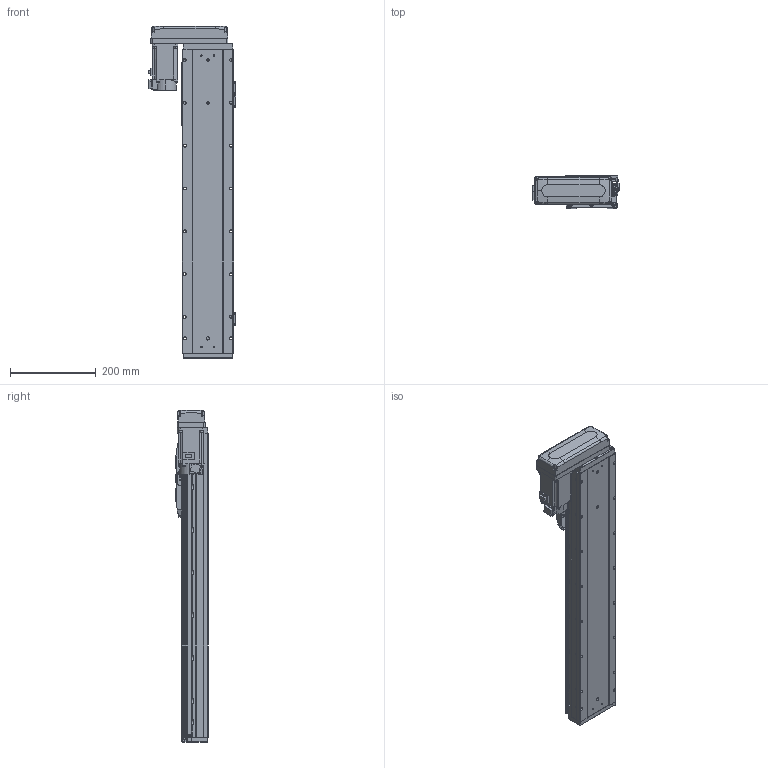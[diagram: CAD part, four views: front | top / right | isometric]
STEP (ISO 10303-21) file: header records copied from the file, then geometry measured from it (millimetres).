
FILE_DESCRIPTION (( 'STEP AP203' ), '1' );
FILE_NAME ('GTH12-500-BR-M40-C4.step', '2023-07-05T00:06:20', ( '微软用户' ), ( '微软中国' ), 'SwSTEP 2.0', 'SolidWorks 2020', '' );
FILE_SCHEMA (( 'CONFIG_CONTROL_DESIGN' ));
Length unit declared in the file: millimetre
Products named in the file (18): GTH120-001_500; GBT 70.3-M3℅8; hg-kn43j_-s100_; GTH120-003; GTH80-022; CTHA86-033_M40B; GTH120-006; GTH80-028; GTH120-027-1_GTH120-027-2; GTH120-004; GTH50-023; GTH12-500-BR-M40-C4; GTH120-013; GTH50-024; GBT 70.1-M3℅6; GBT96.1-2002 3×0.8; GBT 70.1-M5×16; BTH-M3X5X6
Assembly tree (59 placements, depth 2):
  GTH12-500-BR-M40-C4
    GTH120-001_500
    GTH120-003
    GTH120-006
    GTH120-004
    GTH120-013
    GBT 70.1-M3℅6  x14
    GBT 70.1-M5×16  x10
    GBT 70.3-M3℅8  x4
    GTH80-022
    GTH80-028  x2
    GTH50-023  x3
    GTH50-024  x3
    GBT96.1-2002 3×0.8  x6
    BTH-M3X5X6  x8
    hg-kn43j_-s100_
    CTHA86-033_M40B
    GTH120-027-1_GTH120-027-2
Bounding box: 203.5 x 76 x 775.5 mm (x, y, z)
Volume: 5908079.3 mm3; surface area: 574644.7 mm2
Topology: 61 solids, 61 shells, 2428 faces, 5655 edges, 3469 vertices
Faces by surface type: plane 1254, cylinder 698, cone 288, torus 174, sphere 8, bspline 6
Entity records: 45097 total; most frequent: CARTESIAN_POINT 7638, DIRECTION 7455, ORIENTED_EDGE 6920, EDGE_CURVE 3460, AXIS2_PLACEMENT_3D 2607, LINE 2241, VECTOR 2241, VERTEX_POINT 2190
